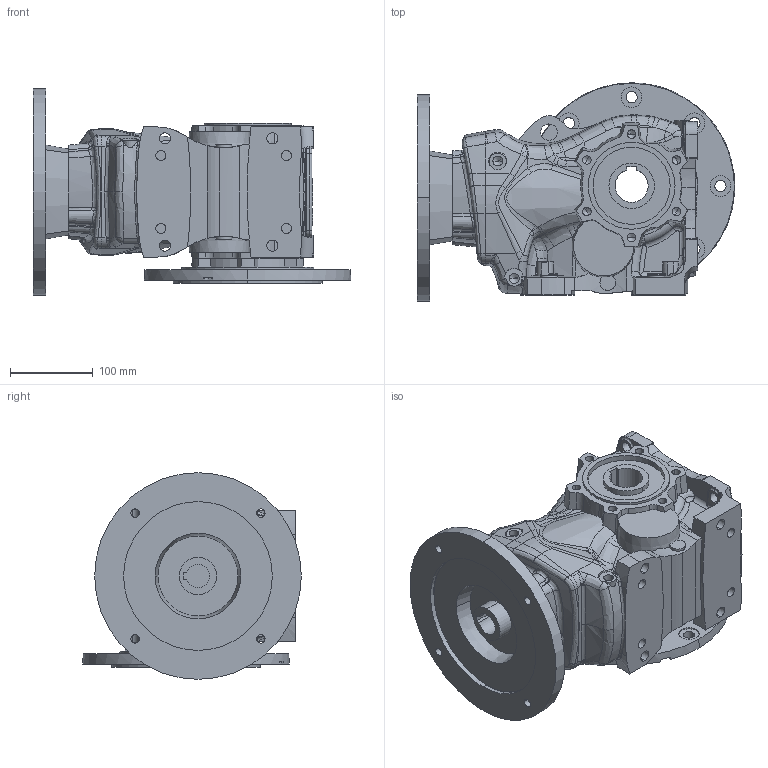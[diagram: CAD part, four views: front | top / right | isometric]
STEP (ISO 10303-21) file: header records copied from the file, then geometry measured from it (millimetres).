
FILE_DESCRIPTION((''),'2;1');
FILE_NAME('ENDURO5_ASM','2015-06-09T',('Luca'),(''),'PRO/ENGINEER BY PARAMETRIC TECHNOLOGY CORPORATION, 2008230','PRO/ENGINEER BY PARAMETRIC TECHNOLOGY CORPORATION, 2008230','');
FILE_SCHEMA(('CONFIG_CONTROL_DESIGN'));
Length unit declared in the file: millimetre
Products named in the file (4): HOUEN5; OFL250EN5_2; IFL100112EN5; ENDURO5_ASM
Assembly tree (3 placements, depth 2):
  ENDURO5_ASM
    HOUEN5
    OFL250EN5_2
    IFL100112EN5
Bounding box: 384.18 x 264.47 x 250 mm (x, y, z)
Volume: 7909239.3 mm3; surface area: 648711.8 mm2
Topology: 3 solids, 4 shells, 1359 faces, 3757 edges, 2440 vertices
Faces by surface type: cylinder 433, plane 336, bspline 278, cone 215, torus 74, extrusion 20, sphere 3
Entity records: 54960 total; most frequent: CARTESIAN_POINT 23405, ORIENTED_EDGE 7452, DIRECTION 5419, EDGE_CURVE 3726, VERTEX_POINT 2440, AXIS2_PLACEMENT_3D 2204, B_SPLINE_CURVE_WITH_KNOTS 1619, EDGE_LOOP 1496
